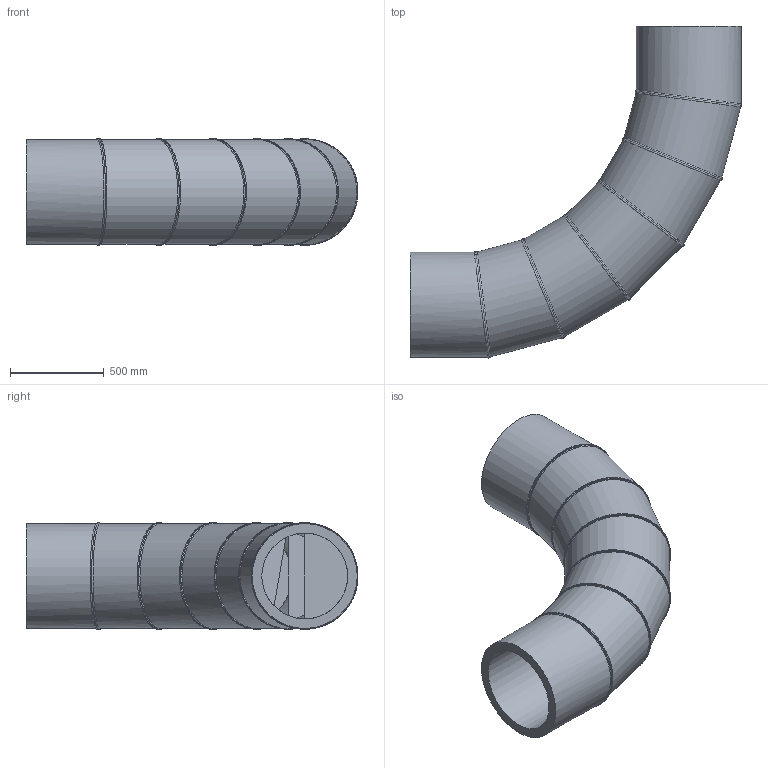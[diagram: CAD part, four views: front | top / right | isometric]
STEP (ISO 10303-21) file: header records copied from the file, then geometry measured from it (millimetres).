
FILE_DESCRIPTION(/* description */ ('Unknown'),/* implementation_level */ '2;1');
FILE_NAME(/* name */ 'Curva 90° a settore DE560 SDR11',/* time_stamp */ '2022-07-27T09:12:19+02:00',/* author */ ('Unknown'),/* organization */ ('Unknown'),/* preprocessor_version */ 'ST-DEVELOPER v18.102',/* originating_system */ 'Solid Edge',/* authorisation */ 'Unknown');
FILE_SCHEMA (('AUTOMOTIVE_DESIGN {1 0 10303 214 3 1 1}'));
Length unit declared in the file: millimetre
Products named in the file (3): Curva 90° a settore DE560 SDR11; Tubo x Gomito 90° DE560 SDR11 - 2; Tubo x Gomito 90° DE560 SDR11 - 1
Assembly tree (7 placements, depth 2):
  Curva 90° a settore DE560 SDR11
    Tubo x Gomito 90° DE560 SDR11 - 2  x5
    Tubo x Gomito 90° DE560 SDR11 - 1  x2
Bounding box: 1771.44 x 1771.44 x 567.99 mm (x, y, z)
Volume: 199013187.2 mm3; surface area: 9059423.8 mm2
Topology: 7 solids, 7 shells, 64 faces, 143 edges, 93 vertices
Faces by surface type: cylinder 38, plane 14, bspline 12
Full cylindrical faces by diameter (mm): 458.4 x7, 560 x7
Entity records: 3500 total; most frequent: CARTESIAN_POINT 3077, DIRECTION 78, ORIENTED_EDGE 52, AXIS2_PLACEMENT_3D 39, EDGE_LOOP 28, FACE_BOUND 28, EDGE_CURVE 26, VERTEX_POINT 20
